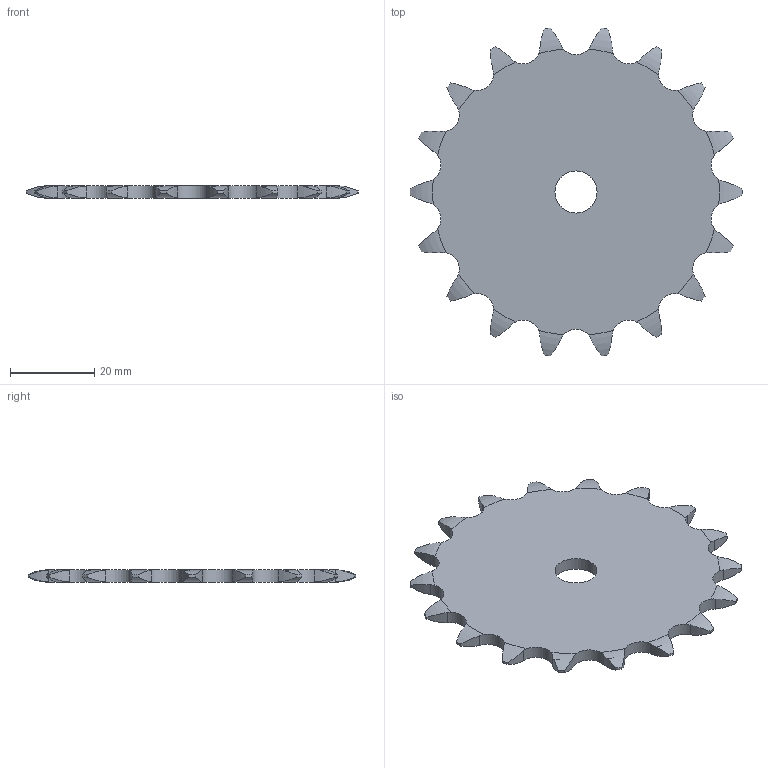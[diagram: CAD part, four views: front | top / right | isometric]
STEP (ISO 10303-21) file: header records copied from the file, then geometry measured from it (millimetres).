
FILE_DESCRIPTION((''),'2;1');
FILE_NAME('500-231-0018_PRT','2021-02-12T',('Brieden'),('Brieden'),'PRO/ENGINEER BY PARAMETRIC TECHNOLOGY CORPORATION, 2010160','PRO/ENGINEER BY PARAMETRIC TECHNOLOGY CORPORATION, 2010160','');
FILE_SCHEMA(('AUTOMOTIVE_DESIGN { 1 0 10303 214 1 1 1 1 }'));
Length unit declared in the file: millimetre
Products named in the file (1): 500-231-0018_PRT
Bounding box: 78.9 x 77.94 x 3 mm (x, y, z)
Volume: 11322.5 mm3; surface area: 8647.1 mm2
Topology: 1 solids, 1 shells, 112 faces, 330 edges, 220 vertices
Faces by surface type: cylinder 74, torus 36, plane 2
Entity records: 5274 total; most frequent: CARTESIAN_POINT 1397, ORIENTED_EDGE 660, DIRECTION 522, PRESENTATION_STYLE_ASSIGNMENT 331, STYLED_ITEM 331, CURVE_STYLE 330, EDGE_CURVE 330, AXIS2_PLACEMENT_3D 224
